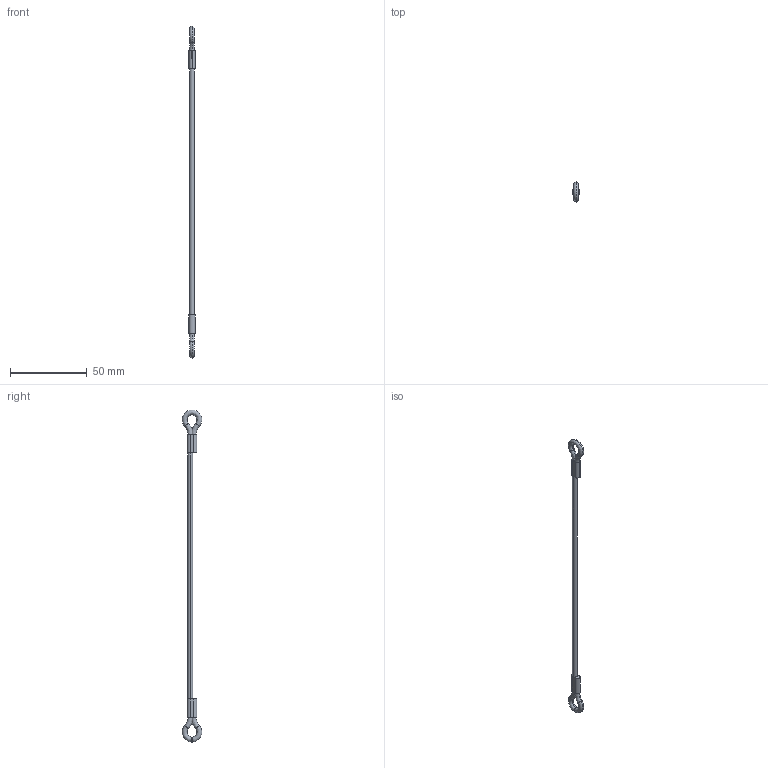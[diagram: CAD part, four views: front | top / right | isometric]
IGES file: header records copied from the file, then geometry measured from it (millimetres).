
Start section: SolidWorks IGES file using analytic representation for surfaces
Global section: file name: C:\Users\ianosborn\Desktop\LA1065_v2\LA1065_v2_20260320_IGES\LA1065.I06-203C1.igs; native system: SolidWorks 2019; preprocessor: SolidWorks 2019; author: IanOsborn; date: 260323.154411; units: millimetre
Bounding box: 3.99 x 12.77 x 215.96 mm (x, y, z)
Surface area: 2746.9 mm2 (no closed solid volume)
Topology: 0 solids, 0 shells, 30 faces, 416 edges, 416 vertices
Faces by surface type: bspline 22, revolution 8
